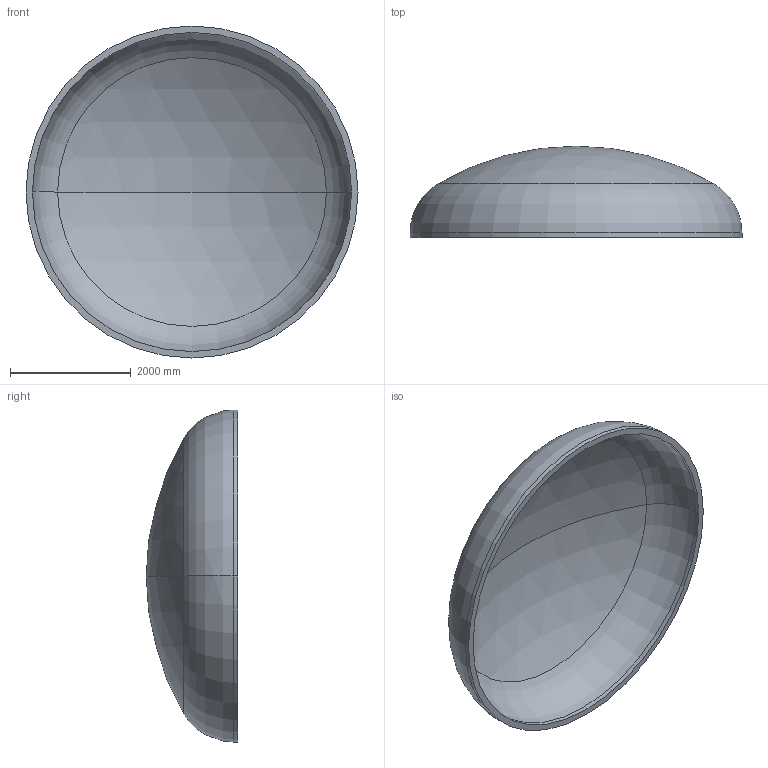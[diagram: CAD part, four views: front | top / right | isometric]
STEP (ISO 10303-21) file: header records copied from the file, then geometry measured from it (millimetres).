
FILE_DESCRIPTION (( 'STEP AP203' ), '1' );
FILE_NAME ('DIN 28013 Korbbogenform_-_Boden DIN 28013 - 5500 x 75 - I - s=106.step', '2016-07-04T10:35:15', ( '' ), ( '' ), 'SwSTEP 2.0', 'SolidWorks 2013', '' );
FILE_SCHEMA (( 'CONFIG_CONTROL_DESIGN' ));
Length unit declared in the file: millimetre
Products named in the file (1): DIN 28013 Korbbogenform_-_Boden DIN 28013 - 5500 x 75 - I - s=106
Bounding box: 5500 x 1514.79 x 5500 mm (x, y, z)
Volume: 3533616864.5 mm3; surface area: 68491773.8 mm2
Topology: 1 solids, 1 shells, 13 faces, 24 edges, 14 vertices
Faces by surface type: torus 4, cylinder 4, sphere 4, plane 1
Entity records: 407 total; most frequent: DIRECTION 72, CARTESIAN_POINT 52, ORIENTED_EDGE 48, AXIS2_PLACEMENT_3D 34, EDGE_CURVE 24, CIRCLE 20, VERTEX_POINT 14, EDGE_LOOP 14
